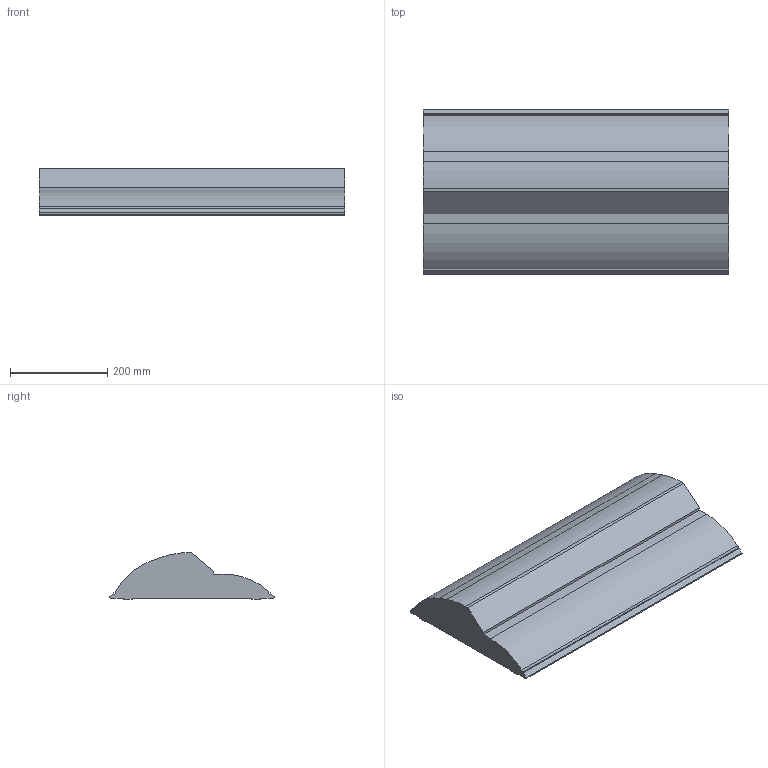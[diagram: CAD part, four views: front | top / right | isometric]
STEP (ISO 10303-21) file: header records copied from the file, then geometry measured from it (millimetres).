
FILE_DESCRIPTION(/* description */ ('Unknown'),/* implementation_level */ '2;1');
FILE_NAME(/* name */ '3D_Footsie1_w_diffuser',/* time_stamp */ '2024-05-16T08:05:50+02:00',/* author */ ('vaclavek'),/* organization */ ('ROBE lighting s.r.o.'),/* preprocessor_version */ 'ST-DEVELOPER v19.4',/* originating_system */ 'Solid Edge',/* authorisation */ 'Unknown');
FILE_SCHEMA (('AUTOMOTIVE_DESIGN {1 0 10303 214 3 1 1}'));
Length unit declared in the file: millimetre
Products named in the file (1): 3D_Footsie1
Bounding box: 629 x 338.56 x 96.46 mm (x, y, z)
Volume: 12375612.5 mm3; surface area: 519900.2 mm2
Topology: 1 solids, 1 shells, 29 faces, 81 edges, 54 vertices
Faces by surface type: plane 18, cylinder 11
Entity records: 967 total; most frequent: CARTESIAN_POINT 165, DIRECTION 163, ORIENTED_EDGE 162, EDGE_CURVE 81, LINE 59, VECTOR 59, VERTEX_POINT 54, AXIS2_PLACEMENT_3D 52
